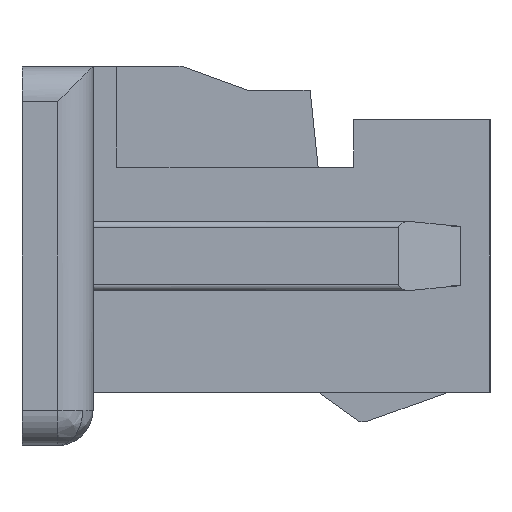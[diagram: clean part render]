
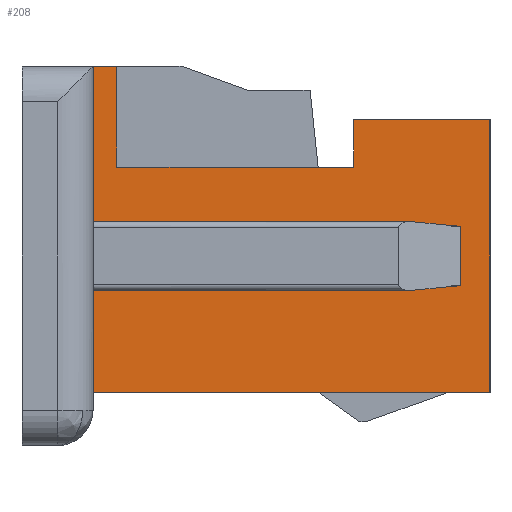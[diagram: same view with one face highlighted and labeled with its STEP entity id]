
A CAD part, left-side view. The second image highlights one B-rep face of the part: STEP entity #208.
In plain terms, the highlighted planar face has unit normal (-1, 0, 0).
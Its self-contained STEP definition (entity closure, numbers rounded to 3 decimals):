
#7 = CARTESIAN_POINT ( 'NONE',  ( -5.225, 1.375, -1.15 ) ) ;
#100 = VECTOR ( 'NONE', #10993, 1000. ) ;
#208 = ADVANCED_FACE ( 'NONE', ( #12074 ), #2219, .T. ) ;
#337 = DIRECTION ( 'NONE',  ( 0., 0., 1. ) ) ;
#379 = LINE ( 'NONE', #10983, #5979 ) ;
#595 = DIRECTION ( 'NONE',  ( 0., 0., 1. ) ) ;
#816 = LINE ( 'NONE', #9180, #11727 ) ;
#853 = DIRECTION ( 'NONE',  ( 0., -1., 0. ) ) ;
#1110 = VECTOR ( 'NONE', #3111, 1000. ) ;
#1180 = ORIENTED_EDGE ( 'NONE', *, *, #6432, .T. ) ;
#1216 = DIRECTION ( 'NONE',  ( 0., 0., -1. ) ) ;
#1322 = CARTESIAN_POINT ( 'NONE',  ( -5.225, -1.975, 1.15 ) ) ;
#1427 = LINE ( 'NONE', #1706, #100 ) ;
#1512 = VERTEX_POINT ( 'NONE', #7079 ) ;
#1557 = LINE ( 'NONE', #11985, #8360 ) ;
#1600 = VERTEX_POINT ( 'NONE', #3526 ) ;
#1706 = CARTESIAN_POINT ( 'NONE',  ( -5.225, 1.375, 0.25 ) ) ;
#1723 = LINE ( 'NONE', #1983, #12209 ) ;
#1861 = ORIENTED_EDGE ( 'NONE', *, *, #10920, .T. ) ;
#1878 = CARTESIAN_POINT ( 'NONE',  ( -5.225, -1.975, 1.15 ) ) ;
#1957 = VERTEX_POINT ( 'NONE', #7 ) ;
#1983 = CARTESIAN_POINT ( 'NONE',  ( -5.225, 1.375, 0.75 ) ) ;
#2017 = ORIENTED_EDGE ( 'NONE', *, *, #11787, .T. ) ;
#2062 = CARTESIAN_POINT ( 'NONE',  ( -5.225, -0.825, 0.75 ) ) ;
#2219 = PLANE ( 'NONE',  #9388 ) ;
#2509 = CARTESIAN_POINT ( 'NONE',  ( -5.225, 1.175, 1.6 ) ) ;
#2514 = CARTESIAN_POINT ( 'NONE',  ( -5.225, -0.825, 1.15 ) ) ;
#2606 = EDGE_CURVE ( 'NONE', #5399, #12246, #4025, .T. ) ;
#2732 = VECTOR ( 'NONE', #853, 1000. ) ;
#2746 = VECTOR ( 'NONE', #337, 1000. ) ;
#2853 = VECTOR ( 'NONE', #3094, 1000. ) ;
#2861 = EDGE_CURVE ( 'NONE', #1957, #10657, #1557, .T. ) ;
#3094 = DIRECTION ( 'NONE',  ( 0., 1., 0. ) ) ;
#3111 = DIRECTION ( 'NONE',  ( 0., 0., -1. ) ) ;
#3321 = LINE ( 'NONE', #5938, #2746 ) ;
#3526 = CARTESIAN_POINT ( 'NONE',  ( -5.225, 1.375, 1.6 ) ) ;
#3616 = LINE ( 'NONE', #5018, #1110 ) ;
#4025 = LINE ( 'NONE', #1322, #2853 ) ;
#4151 = VECTOR ( 'NONE', #12064, 1000. ) ;
#4510 = LINE ( 'NONE', #9294, #2732 ) ;
#4515 = CARTESIAN_POINT ( 'NONE',  ( -5.225, -1.975, -1.6 ) ) ;
#4649 = EDGE_CURVE ( 'NONE', #5308, #11271, #1427, .T. ) ;
#4683 = CARTESIAN_POINT ( 'NONE',  ( -5.225, -1.725, 0.25 ) ) ;
#4807 = VERTEX_POINT ( 'NONE', #5705 ) ;
#5018 = CARTESIAN_POINT ( 'NONE',  ( -5.225, 1.375, -1.6 ) ) ;
#5061 = CARTESIAN_POINT ( 'NONE',  ( -5.225, 1.375, -1.6 ) ) ;
#5179 = EDGE_CURVE ( 'NONE', #9051, #6424, #3321, .T. ) ;
#5297 = EDGE_CURVE ( 'NONE', #1600, #6424, #4510, .T. ) ;
#5308 = VERTEX_POINT ( 'NONE', #10229 ) ;
#5353 = DIRECTION ( 'NONE',  ( 0., 0., -1. ) ) ;
#5399 = VERTEX_POINT ( 'NONE', #1878 ) ;
#5564 = VECTOR ( 'NONE', #595, 1000. ) ;
#5654 = DIRECTION ( 'NONE',  ( 0., 1., 0. ) ) ;
#5705 = CARTESIAN_POINT ( 'NONE',  ( -5.225, -1.725, -0.25 ) ) ;
#5719 = EDGE_CURVE ( 'NONE', #1600, #5308, #379, .T. ) ;
#5883 = DIRECTION ( 'NONE',  ( -1., 0., 0. ) ) ;
#5938 = CARTESIAN_POINT ( 'NONE',  ( -5.225, 1.175, -1.6 ) ) ;
#5942 = ORIENTED_EDGE ( 'NONE', *, *, #5297, .F. ) ;
#5979 = VECTOR ( 'NONE', #10083, 1000. ) ;
#6008 = ORIENTED_EDGE ( 'NONE', *, *, #9730, .T. ) ;
#6133 = EDGE_CURVE ( 'NONE', #1512, #1957, #3616, .T. ) ;
#6266 = ORIENTED_EDGE ( 'NONE', *, *, #6133, .T. ) ;
#6424 = VERTEX_POINT ( 'NONE', #2509 ) ;
#6432 = EDGE_CURVE ( 'NONE', #11271, #4807, #816, .T. ) ;
#6819 = LINE ( 'NONE', #10901, #4151 ) ;
#6836 = EDGE_CURVE ( 'NONE', #12027, #9051, #1723, .T. ) ;
#7079 = CARTESIAN_POINT ( 'NONE',  ( -5.225, 1.375, -0.25 ) ) ;
#7469 = ORIENTED_EDGE ( 'NONE', *, *, #5719, .T. ) ;
#8360 = VECTOR ( 'NONE', #9199, 1000. ) ;
#8433 = ORIENTED_EDGE ( 'NONE', *, *, #4649, .T. ) ;
#8647 = LINE ( 'NONE', #11568, #10127 ) ;
#8649 = ORIENTED_EDGE ( 'NONE', *, *, #5179, .T. ) ;
#9051 = VERTEX_POINT ( 'NONE', #9072 ) ;
#9072 = CARTESIAN_POINT ( 'NONE',  ( -5.225, 1.175, 0.75 ) ) ;
#9180 = CARTESIAN_POINT ( 'NONE',  ( -5.225, -1.725, -1.6 ) ) ;
#9199 = DIRECTION ( 'NONE',  ( 0., -1., 0. ) ) ;
#9294 = CARTESIAN_POINT ( 'NONE',  ( -5.225, 0., 1.6 ) ) ;
#9309 = ORIENTED_EDGE ( 'NONE', *, *, #6836, .T. ) ;
#9388 = AXIS2_PLACEMENT_3D ( 'NONE', #5061, #5883, #11668 ) ;
#9730 = EDGE_CURVE ( 'NONE', #10657, #5399, #10455, .T. ) ;
#10083 = DIRECTION ( 'NONE',  ( 0., 0., -1. ) ) ;
#10127 = VECTOR ( 'NONE', #1216, 1000. ) ;
#10229 = CARTESIAN_POINT ( 'NONE',  ( -5.225, 1.375, 0.25 ) ) ;
#10455 = LINE ( 'NONE', #4515, #5564 ) ;
#10657 = VERTEX_POINT ( 'NONE', #12124 ) ;
#10901 = CARTESIAN_POINT ( 'NONE',  ( -5.225, 1.375, -0.25 ) ) ;
#10920 = EDGE_CURVE ( 'NONE', #12246, #12027, #8647, .T. ) ;
#10983 = CARTESIAN_POINT ( 'NONE',  ( -5.225, 1.375, -1.6 ) ) ;
#10986 = EDGE_LOOP ( 'NONE', ( #2017, #6266, #12146, #6008, #11312, #1861, #9309, #8649, #5942, #7469, #8433, #1180 ) ) ;
#10993 = DIRECTION ( 'NONE',  ( 0., -1., 0. ) ) ;
#11271 = VERTEX_POINT ( 'NONE', #4683 ) ;
#11312 = ORIENTED_EDGE ( 'NONE', *, *, #2606, .T. ) ;
#11568 = CARTESIAN_POINT ( 'NONE',  ( -5.225, -0.825, -1.6 ) ) ;
#11668 = DIRECTION ( 'NONE',  ( 0., 0., 1. ) ) ;
#11727 = VECTOR ( 'NONE', #5353, 1000. ) ;
#11787 = EDGE_CURVE ( 'NONE', #4807, #1512, #6819, .T. ) ;
#11985 = CARTESIAN_POINT ( 'NONE',  ( -5.225, 1.375, -1.15 ) ) ;
#12027 = VERTEX_POINT ( 'NONE', #2062 ) ;
#12064 = DIRECTION ( 'NONE',  ( 0., 1., 0. ) ) ;
#12074 = FACE_OUTER_BOUND ( 'NONE', #10986, .T. ) ;
#12124 = CARTESIAN_POINT ( 'NONE',  ( -5.225, -1.975, -1.15 ) ) ;
#12146 = ORIENTED_EDGE ( 'NONE', *, *, #2861, .T. ) ;
#12209 = VECTOR ( 'NONE', #5654, 1000. ) ;
#12246 = VERTEX_POINT ( 'NONE', #2514 ) ;
